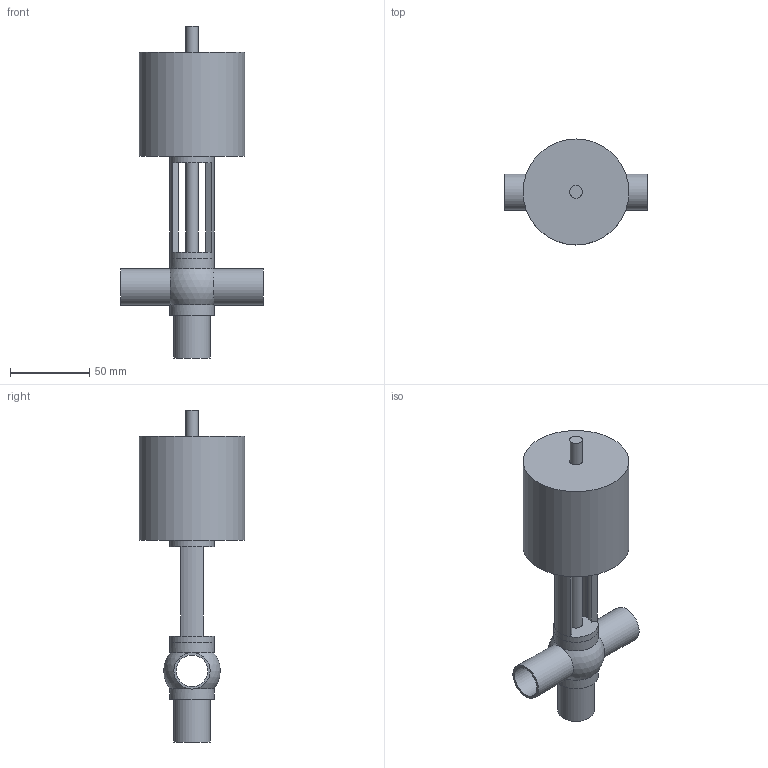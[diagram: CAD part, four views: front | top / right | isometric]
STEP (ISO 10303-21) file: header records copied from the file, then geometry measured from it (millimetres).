
FILE_DESCRIPTION(('FreeCAD Model'),'2;1');
FILE_NAME('/home/martin/Documents/proyect/valves/stp/valve_T_DN-20.step' ,'2018-01-12T21:55:34',('Author'),(''), 'Open CASCADE STEP processor 6.8','FreeCAD','Unknown');
FILE_SCHEMA(('AUTOMOTIVE_DESIGN_CC2 { 1 2 10303 214 -1 1 5 4 }'));
Length unit declared in the file: millimetre
Products named in the file (3): ASSEMBLY; valve_T_DN-20-body; valve_T_DN-20-head
Assembly tree (2 placements, depth 2):
  ASSEMBLY
    valve_T_DN-20-body
    valve_T_DN-20-head
Bounding box: 90 x 67 x 210 mm (x, y, z)
Volume: 266381.4 mm3; surface area: 46645.9 mm2
Topology: 2 solids, 2 shells, 37 faces, 88 edges, 56 vertices
Faces by surface type: cylinder 18, plane 16, sphere 3
Full cylindrical faces by diameter (mm): 8 x2, 20 x3, 23 x3, 28 x4, 67 x1
Entity records: 3132 total; most frequent: CARTESIAN_POINT 1170, DIRECTION 351, ORIENTED_EDGE 174, PCURVE 174, DEFINITIONAL_REPRESENTATION 174, LINE 144, VECTOR 144, AXIS2_PLACEMENT_3D 89
